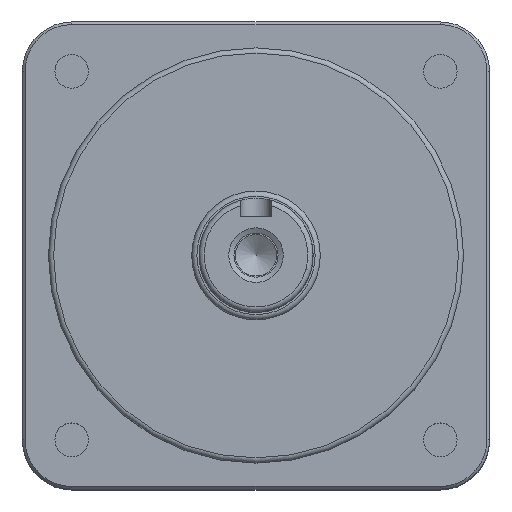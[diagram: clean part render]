
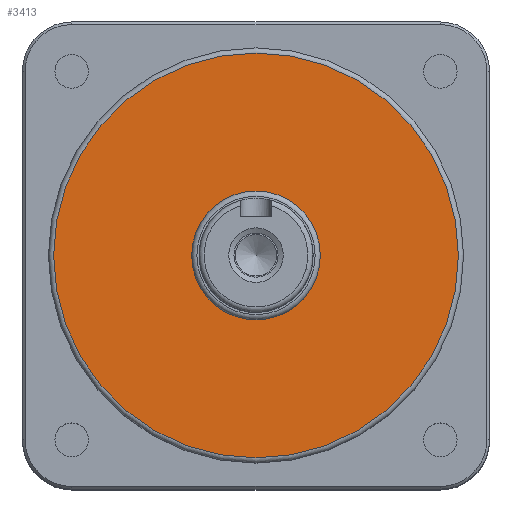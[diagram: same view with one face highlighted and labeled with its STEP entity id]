
A CAD part, top view. The second image highlights one B-rep face of the part: STEP entity #3413.
In plain terms, the highlighted planar face has unit normal (0, 0, 1).
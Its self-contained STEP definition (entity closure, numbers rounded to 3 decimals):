
#2875=CARTESIAN_POINT('',(-12.4,0.,-1.5));
#2876=VERTEX_POINT('',#2875);
#2877=CARTESIAN_POINT('',(0.0,0.0,-1.5));
#2878=DIRECTION('',(0.0,0.0,1.0));
#2879=DIRECTION('',(1.0,0.0,0.0));
#2880=AXIS2_PLACEMENT_3D('',#2877,#2878,#2879);
#2881=CIRCLE('',#2880,12.4);
#2882=EDGE_CURVE('',#2876,#2876,#2881,.T.);
#3390=CARTESIAN_POINT('',(-39.0,0.,-1.5));
#3391=VERTEX_POINT('',#3390);
#3392=CARTESIAN_POINT('',(0.0,0.0,-1.5));
#3393=DIRECTION('',(0.0,0.0,-1.0));
#3394=DIRECTION('',(1.0,0.0,0.0));
#3395=AXIS2_PLACEMENT_3D('',#3392,#3393,#3394);
#3396=CIRCLE('',#3395,39.0);
#3397=EDGE_CURVE('',#3391,#3391,#3396,.T.);
#3402=CARTESIAN_POINT('',(0.0,0.0,-1.5));
#3403=DIRECTION('',(0.0,0.0,1.0));
#3404=DIRECTION('',(1.0,0.0,0.0));
#3405=AXIS2_PLACEMENT_3D('',#3402,#3403,#3404);
#3406=PLANE('',#3405);
#3407=ORIENTED_EDGE('',*,*,#3397,.F.);
#3408=EDGE_LOOP('',(#3407));
#3409=FACE_OUTER_BOUND('',#3408,.T.);
#3410=ORIENTED_EDGE('',*,*,#2882,.F.);
#3411=EDGE_LOOP('',(#3410));
#3412=FACE_BOUND('',#3411,.T.);
#3413=ADVANCED_FACE('',(#3409,#3412),#3406,.T.);
